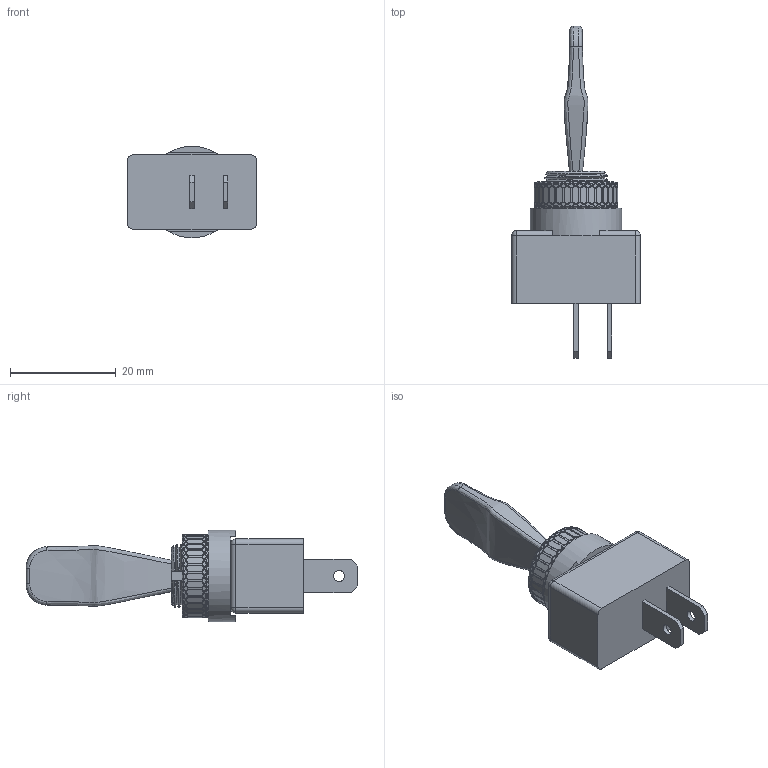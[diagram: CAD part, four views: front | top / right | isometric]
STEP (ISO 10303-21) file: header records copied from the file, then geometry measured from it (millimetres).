
FILE_DESCRIPTION(/* description */ (''),/* implementation_level */ '2;1');
FILE_NAME(/* name */ 'C:\Users\Hani\Desktop\work\TE1-1A-DC-1-PB\TE1-1A-DC-1-PB.stp',/* time_stamp */ '2021-01-20T17:20:00-08:00',/* author */ ('Hani'),/* organization */ (''),/* preprocessor_version */ 'ST-DEVELOPER v17',/* originating_system */ 'Autodesk Inventor 2019',/* authorisation */ '');
FILE_SCHEMA (('AUTOMOTIVE_DESIGN { 1 0 10303 214 3 1 1 }'));
Length unit declared in the file: inch
Products named in the file (6): TE1-1A-DC-1-PB; TE1-1A-DC-1-PB_1; TOGGLE SWITCH; Knurled NUT; keyway_nut; TOGGLE SWITCH2
Assembly tree (5 placements, depth 2):
  TE1-1A-DC-1-PB
    TE1-1A-DC-1-PB_1
    TOGGLE SWITCH
    Knurled NUT
    keyway_nut
    TOGGLE SWITCH2
Bounding box: 24.4 x 62.8 x 17.3 mm (x, y, z)
Volume: 7413.4 mm3; surface area: 5404.6 mm2
Topology: 6 solids, 6 shells, 1202 faces, 3273 edges, 2177 vertices
Faces by surface type: plane 932, cylinder 210, bspline 44, cone 10, sphere 4, torus 2
Full cylindrical faces by diameter (mm): 2.1 x2, 8.636 x1, 11.047 x3, 11.831 x1, 11.841 x1, 11.906 x4, 12.471 x1, 15.367 x1, 15.723 x1, 17.297 x1
Entity records: 55857 total; most frequent: CARTESIAN_POINT 24370, DIRECTION 7022, ORIENTED_EDGE 6542, EDGE_CURVE 3271, AXIS2_PLACEMENT_3D 2986, VERTEX_POINT 2177, ELLIPSE 1408, EDGE_LOOP 1308
